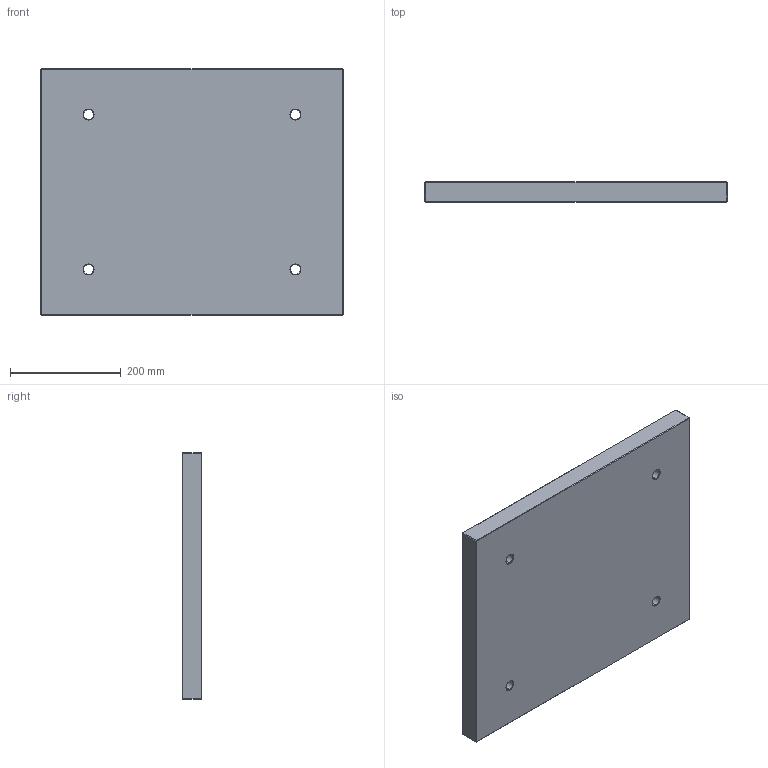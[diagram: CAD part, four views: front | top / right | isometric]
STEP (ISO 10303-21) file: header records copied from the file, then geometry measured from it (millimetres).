
FILE_DESCRIPTION (( 'STEP AP214' ), '1' );
FILE_NAME ('446x446x36.STEP', '2020-03-09T17:59:30', ( 'August' ), ( '' ), 'SwSTEP 2.0', 'SolidWorks 2018', '' );
FILE_SCHEMA (( 'AUTOMOTIVE_DESIGN' ));
Length unit declared in the file: millimetre
Products named in the file (1): 446x446x36
Bounding box: 546 x 36 x 446 mm (x, y, z)
Volume: 8707691.8 mm3; surface area: 563647.6 mm2
Topology: 1 solids, 1 shells, 62 faces, 128 edges, 72 vertices
Faces by surface type: plane 30, cone 16, cylinder 16
Entity records: 1650 total; most frequent: DIRECTION 302, CARTESIAN_POINT 263, ORIENTED_EDGE 256, EDGE_CURVE 128, AXIS2_PLACEMENT_3D 111, VECTOR 80, LINE 80, EDGE_LOOP 74
